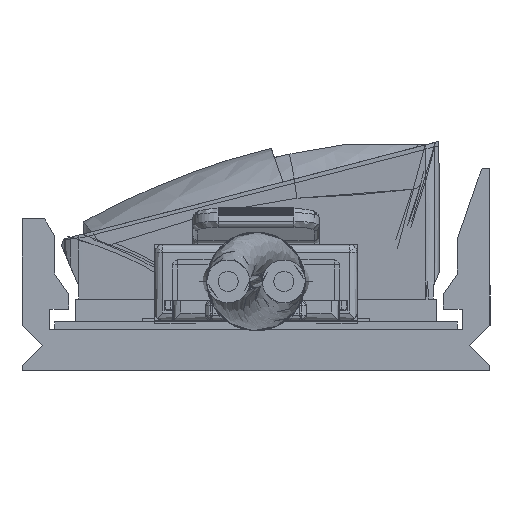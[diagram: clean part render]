
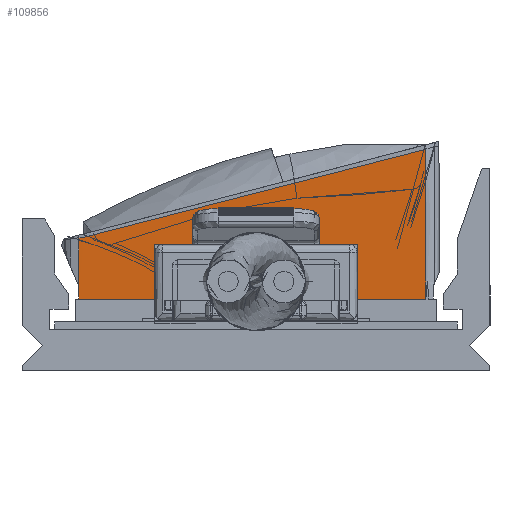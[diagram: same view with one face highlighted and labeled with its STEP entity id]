
A CAD part, left-side view. The second image highlights one B-rep face of the part: STEP entity #109856.
In plain terms, the highlighted free-form (B-spline) face has degree [1, 3] with [2, 4] control points.
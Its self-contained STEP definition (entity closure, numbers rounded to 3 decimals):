
#3505 = CARTESIAN_POINT ( 'NONE',  ( 134.989, -8.233, 1.5 ) ) ;
#3861 = CARTESIAN_POINT ( 'NONE',  ( 135.558, -3.379, 4.646 ) ) ;
#4958 = VERTEX_POINT ( 'NONE', #96518 ) ;
#7330 = VERTEX_POINT ( 'NONE', #91409 ) ;
#10617 = CARTESIAN_POINT ( 'NONE',  ( 136.067, 1.105, 5.798 ) ) ;
#12964 = CARTESIAN_POINT ( 'NONE',  ( 134.992, -8.233, 1. ) ) ;
#13440 = EDGE_CURVE ( 'NONE', #7330, #64551, #43095, .T. ) ;
#14369 = CARTESIAN_POINT ( 'NONE',  ( 136.531, 5.485, 8.181 ) ) ;
#15150 = ORIENTED_EDGE ( 'NONE', *, *, #37489, .T. ) ;
#15748 = ORIENTED_EDGE ( 'NONE', *, *, #13440, .T. ) ;
#28670 = CARTESIAN_POINT ( 'NONE',  ( 134.999, -8.08, 3.436 ) ) ;
#33487 = B_SPLINE_CURVE_WITH_KNOTS ( 'NONE', 3,
 ( #89352, #61348, #88953, #61736 ),
 .UNSPECIFIED., .F., .F.,
 ( 4, 4 ),
 ( 0., 1. ),
 .UNSPECIFIED. ) ;
#34340 = CARTESIAN_POINT ( 'NONE',  ( 134.992, -8.233, 1. ) ) ;
#36285 = VECTOR ( 'NONE', #39415, 1000. ) ;
#37325 = B_SPLINE_CURVE_WITH_KNOTS ( 'NONE', 3,
 ( #105990, #105217, #114296, #78477 ),
 .UNSPECIFIED., .F., .F.,
 ( 4, 4 ),
 ( 0., 1. ),
 .UNSPECIFIED. ) ;
#37489 = EDGE_CURVE ( 'NONE', #95576, #50549, #53498, .T. ) ;
#39415 = DIRECTION ( 'NONE',  ( -0.004, 0., 1. ) ) ;
#39433 = CARTESIAN_POINT ( 'NONE',  ( 134.991, -8.233, 1.167 ) ) ;
#40452 = EDGE_CURVE ( 'NONE', #4958, #7330, #73566, .T. ) ;
#40740 = EDGE_CURVE ( 'NONE', #48670, #69454, #84244, .T. ) ;
#40828 = CARTESIAN_POINT ( 'NONE',  ( 136.562, 5.482, 1. ) ) ;
#41598 = CARTESIAN_POINT ( 'NONE',  ( 136.067, 0.907, 1. ) ) ;
#41981 = CARTESIAN_POINT ( 'NONE',  ( 136.036, 0.91, 8.181 ) ) ;
#42115 = EDGE_CURVE ( 'NONE', #64551, #95576, #37325, .T. ) ;
#43095 = B_SPLINE_CURVE_WITH_KNOTS ( 'NONE', 3,
 ( #100347, #28670, #109800, #83068 ),
 .UNSPECIFIED., .F., .F.,
 ( 4, 4 ),
 ( 0., 1. ),
 .UNSPECIFIED. ) ;
#44777 = CARTESIAN_POINT ( 'NONE',  ( 136.536, 5.484, 6.925 ) ) ;
#45237 = EDGE_CURVE ( 'NONE', #69454, #4958, #33487, .T. ) ;
#48670 = VERTEX_POINT ( 'NONE', #61705 ) ;
#50549 = VERTEX_POINT ( 'NONE', #58100 ) ;
#51020 = CARTESIAN_POINT ( 'NONE',  ( 135.54, -3.665, 1. ) ) ;
#51647 = CARTESIAN_POINT ( 'NONE',  ( 136.562, 5.482, 1. ) ) ;
#52041 = CARTESIAN_POINT ( 'NONE',  ( 135.54, -3.664, 1. ) ) ;
#52838 = CARTESIAN_POINT ( 'NONE',  ( 136.067, 0.907, 1. ) ) ;
#53144 = ORIENTED_EDGE ( 'NONE', *, *, #40740, .T. ) ;
#53498 = B_SPLINE_CURVE_WITH_KNOTS ( 'NONE', 3,
 ( #3505, #66967, #39433, #12964 ),
 .UNSPECIFIED., .F., .F.,
 ( 4, 4 ),
 ( 0., 0.001 ),
 .UNSPECIFIED. ) ;
#57339 = ORIENTED_EDGE ( 'NONE', *, *, #42115, .T. ) ;
#58100 = CARTESIAN_POINT ( 'NONE',  ( 134.992, -8.233, 1. ) ) ;
#58733 = ORIENTED_EDGE ( 'NONE', *, *, #108066, .T. ) ;
#59303 = CARTESIAN_POINT ( 'NONE',  ( 134.992, -8.233, 1. ) ) ;
#60252 = B_SPLINE_CURVE_WITH_KNOTS ( 'NONE', 3,
 ( #34340, #52041, #52838, #51647 ),
 .UNSPECIFIED., .F., .F.,
 ( 4, 4 ),
 ( 0., 0.014 ),
 .UNSPECIFIED. ) ;
#60967 = ORIENTED_EDGE ( 'NONE', *, *, #45237, .T. ) ;
#61348 = CARTESIAN_POINT ( 'NONE',  ( 136.534, 5.468, 6.919 ) ) ;
#61705 = CARTESIAN_POINT ( 'NONE',  ( 136.562, 5.482, 1. ) ) ;
#61736 = CARTESIAN_POINT ( 'NONE',  ( 136.531, 5.434, 6.908 ) ) ;
#64551 = VERTEX_POINT ( 'NONE', #85369 ) ;
#66942 = CARTESIAN_POINT ( 'NONE',  ( 135.006, -8.02, 3.451 ) ) ;
#66967 = CARTESIAN_POINT ( 'NONE',  ( 134.99, -8.233, 1.333 ) ) ;
#69454 = VERTEX_POINT ( 'NONE', #44777 ) ;
#73566 = B_SPLINE_CURVE_WITH_KNOTS ( 'NONE', 3,
 ( #85898, #10617, #3861, #66942 ),
 .UNSPECIFIED., .F., .F.,
 ( 4, 4 ),
 ( 0., 1. ),
 .UNSPECIFIED. ) ;
#75441 = B_SPLINE_SURFACE_WITH_KNOTS ( 'NONE', 1, 3, ( 
 ( #40828, #41598, #51020, #59303 ),
 ( #14369, #41981, #113277, #104979 ) ),
 .UNSPECIFIED., .F., .F., .F.,
 ( 2, 2 ),
 ( 4, 4 ),
 ( 0., 1. ),
 ( 0., 1. ),
 .UNSPECIFIED. ) ;
#78477 = CARTESIAN_POINT ( 'NONE',  ( 134.989, -8.233, 1.5 ) ) ;
#83068 = CARTESIAN_POINT ( 'NONE',  ( 134.981, -8.232, 3.421 ) ) ;
#84244 = LINE ( 'NONE', #84366, #36285 ) ;
#84366 = CARTESIAN_POINT ( 'NONE',  ( 136.546, 5.483, 4.591 ) ) ;
#85369 = CARTESIAN_POINT ( 'NONE',  ( 134.981, -8.232, 3.421 ) ) ;
#85819 = EDGE_LOOP ( 'NONE', ( #60967, #102107, #15748, #57339, #15150, #58733, #53144 ) ) ;
#85898 = CARTESIAN_POINT ( 'NONE',  ( 136.531, 5.434, 6.908 ) ) ;
#88953 = CARTESIAN_POINT ( 'NONE',  ( 136.532, 5.451, 6.914 ) ) ;
#89352 = CARTESIAN_POINT ( 'NONE',  ( 136.536, 5.484, 6.925 ) ) ;
#91409 = CARTESIAN_POINT ( 'NONE',  ( 135.006, -8.02, 3.451 ) ) ;
#95407 = FACE_OUTER_BOUND ( 'NONE', #85819, .T. ) ;
#95545 = CARTESIAN_POINT ( 'NONE',  ( 134.989, -8.233, 1.5 ) ) ;
#95576 = VERTEX_POINT ( 'NONE', #95545 ) ;
#96518 = CARTESIAN_POINT ( 'NONE',  ( 136.531, 5.434, 6.908 ) ) ;
#100347 = CARTESIAN_POINT ( 'NONE',  ( 135.006, -8.02, 3.451 ) ) ;
#102107 = ORIENTED_EDGE ( 'NONE', *, *, #40452, .T. ) ;
#104979 = CARTESIAN_POINT ( 'NONE',  ( 134.96, -8.23, 8.181 ) ) ;
#105217 = CARTESIAN_POINT ( 'NONE',  ( 134.984, -8.232, 2.781 ) ) ;
#105990 = CARTESIAN_POINT ( 'NONE',  ( 134.981, -8.232, 3.421 ) ) ;
#108066 = EDGE_CURVE ( 'NONE', #50549, #48670, #60252, .T. ) ;
#109800 = CARTESIAN_POINT ( 'NONE',  ( 134.991, -8.151, 3.426 ) ) ;
#109856 = ADVANCED_FACE ( 'NONE', ( #95407 ), #75441, .T. ) ;
#113277 = CARTESIAN_POINT ( 'NONE',  ( 135.509, -3.661, 8.181 ) ) ;
#114296 = CARTESIAN_POINT ( 'NONE',  ( 134.987, -8.233, 2.14 ) ) ;
